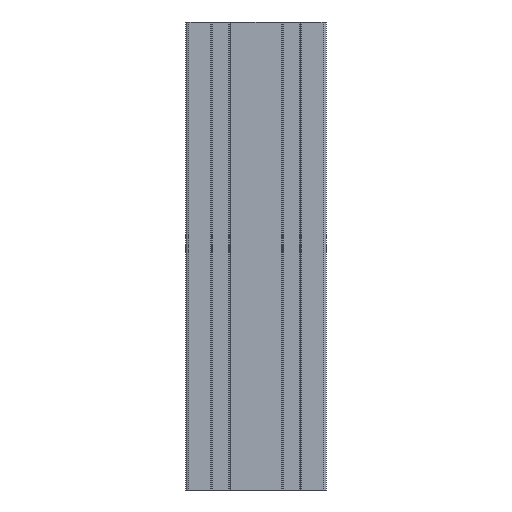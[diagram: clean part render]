
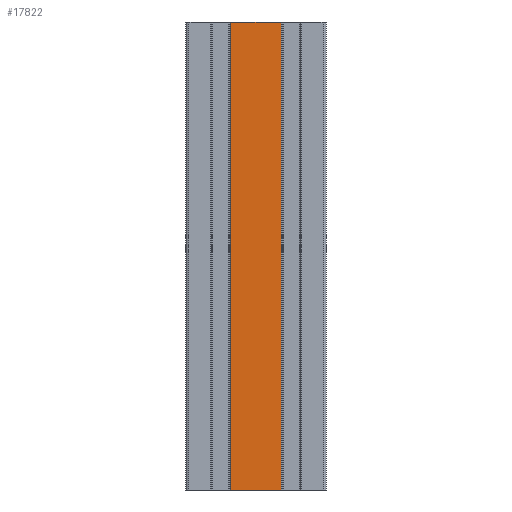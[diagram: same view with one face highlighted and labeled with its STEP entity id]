
A CAD part, left-side view. The second image highlights one B-rep face of the part: STEP entity #17822.
In plain terms, the highlighted planar face has unit normal (-1, 0, 0).
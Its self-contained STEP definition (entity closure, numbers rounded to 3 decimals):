
#146 = DIRECTION ( 'NONE',  ( 0., 0., -1. ) ) ;
#534 = CARTESIAN_POINT ( 'NONE',  ( -45., 16.1, -150. ) ) ;
#1462 = EDGE_CURVE ( 'NONE', #20451, #11363, #5461, .T. ) ;
#2802 = CARTESIAN_POINT ( 'NONE',  ( -45., 16.1, 150. ) ) ;
#4087 = ORIENTED_EDGE ( 'NONE', *, *, #11011, .T. ) ;
#5377 = VECTOR ( 'NONE', #146, 1000. ) ;
#5461 = LINE ( 'NONE', #2802, #5377 ) ;
#5690 = DIRECTION ( 'NONE',  ( 0., -1., 0. ) ) ;
#6079 = ORIENTED_EDGE ( 'NONE', *, *, #1462, .T. ) ;
#6164 = EDGE_CURVE ( 'NONE', #20451, #23668, #11027, .T. ) ;
#6540 = CARTESIAN_POINT ( 'NONE',  ( -45., -16.1, 150. ) ) ;
#7608 = VECTOR ( 'NONE', #19290, 1000. ) ;
#7928 = EDGE_CURVE ( 'NONE', #23668, #10747, #24498, .T. ) ;
#8332 = CARTESIAN_POINT ( 'NONE',  ( -45., 0., 150. ) ) ;
#10747 = VERTEX_POINT ( 'NONE', #15546 ) ;
#11011 = EDGE_CURVE ( 'NONE', #11363, #10747, #25675, .T. ) ;
#11027 = LINE ( 'NONE', #8332, #14090 ) ;
#11152 = EDGE_LOOP ( 'NONE', ( #4087, #18676, #13313, #6079 ) ) ;
#11363 = VERTEX_POINT ( 'NONE', #534 ) ;
#12398 = FACE_OUTER_BOUND ( 'NONE', #11152, .T. ) ;
#13313 = ORIENTED_EDGE ( 'NONE', *, *, #6164, .F. ) ;
#13708 = AXIS2_PLACEMENT_3D ( 'NONE', #21042, #18420, #15796 ) ;
#14090 = VECTOR ( 'NONE', #5690, 1000. ) ;
#15546 = CARTESIAN_POINT ( 'NONE',  ( -45., -16.1, -150. ) ) ;
#15796 = DIRECTION ( 'NONE',  ( 0., 0., -1. ) ) ;
#17822 = ADVANCED_FACE ( 'NONE', ( #12398 ), #23640, .F. ) ;
#18420 = DIRECTION ( 'NONE',  ( 1., 0., 0. ) ) ;
#18676 = ORIENTED_EDGE ( 'NONE', *, *, #7928, .F. ) ;
#19290 = DIRECTION ( 'NONE',  ( 0., 0., -1. ) ) ;
#20451 = VERTEX_POINT ( 'NONE', #21955 ) ;
#20472 = DIRECTION ( 'NONE',  ( 0., -1., 0. ) ) ;
#21042 = CARTESIAN_POINT ( 'NONE',  ( -45., -16.1, 150. ) ) ;
#21910 = CARTESIAN_POINT ( 'NONE',  ( -45., -16.1, 150. ) ) ;
#21955 = CARTESIAN_POINT ( 'NONE',  ( -45., 16.1, 150. ) ) ;
#23087 = CARTESIAN_POINT ( 'NONE',  ( -45., -16.1, -150. ) ) ;
#23640 = PLANE ( 'NONE',  #13708 ) ;
#23668 = VERTEX_POINT ( 'NONE', #6540 ) ;
#24498 = LINE ( 'NONE', #21910, #7608 ) ;
#24809 = VECTOR ( 'NONE', #20472, 1000. ) ;
#25675 = LINE ( 'NONE', #23087, #24809 ) ;
